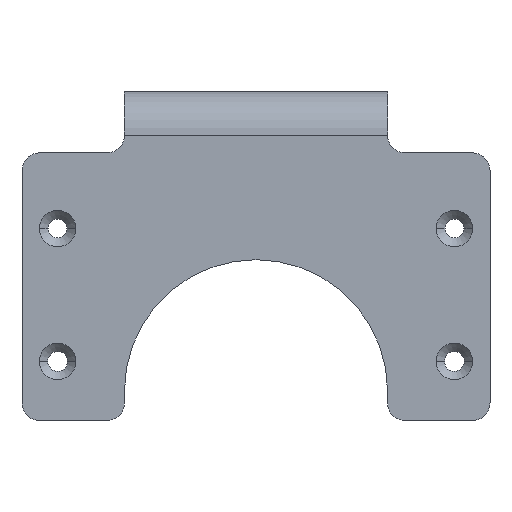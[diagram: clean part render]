
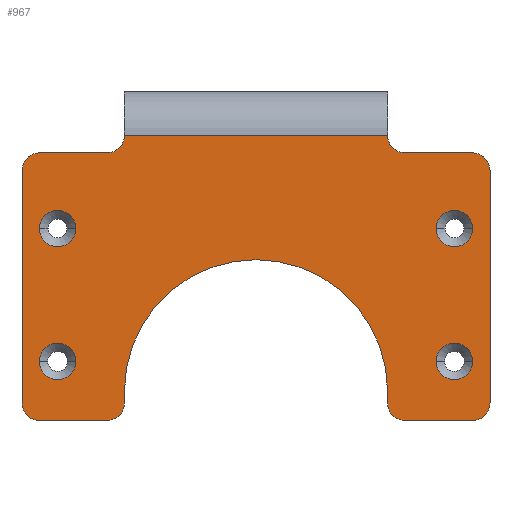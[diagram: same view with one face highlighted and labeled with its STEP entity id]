
A CAD part, front view. The second image highlights one B-rep face of the part: STEP entity #967.
In plain terms, the highlighted planar face has unit normal (0, -1, 0).
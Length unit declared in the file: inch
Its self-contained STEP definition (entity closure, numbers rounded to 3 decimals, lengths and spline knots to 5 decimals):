
#76=CARTESIAN_POINT('',(1.00394,-1.5748,-0.17717));
#77=DIRECTION('',(0.,1.,0.));
#78=DIRECTION('',(0.,0.,-1.));
#79=AXIS2_PLACEMENT_3D('',#76,#77,#78);
#166=CARTESIAN_POINT('',(-1.00394,-1.5748,
-1.97835));
#167=DIRECTION('',(0.,-1.,0.));
#168=DIRECTION('',(0.,0.,-1.));
#169=AXIS2_PLACEMENT_3D('',#166,#167,#168);
#171=CARTESIAN_POINT('',(-1.45669,-1.5748,
-0.41339));
#172=DIRECTION('',(0.,-1.,0.));
#173=DIRECTION('',(0.,0.,1.));
#174=AXIS2_PLACEMENT_3D('',#171,#172,#173);
#176=DIRECTION('',(1.,0.,0.));
#177=VECTOR('',#176,0.45276);
#178=CARTESIAN_POINT('',(-1.45669,-1.5748,
-0.29528));
#179=LINE('',#178,#177);
#180=DIRECTION('',(-1.,0.,0.));
#181=VECTOR('',#180,0.45276);
#182=CARTESIAN_POINT('',(1.45669,-1.5748,
-0.29528));
#183=LINE('',#182,#181);
#184=CARTESIAN_POINT('',(1.45669,-1.5748,
-0.41339));
#185=DIRECTION('',(0.,-1.,0.));
#186=DIRECTION('',(1.,0.,0.));
#187=AXIS2_PLACEMENT_3D('',#184,#185,#186);
#189=DIRECTION('',(0.,0.,-1.));
#190=VECTOR('',#189,1.56496);
#191=CARTESIAN_POINT('',(1.5748,-1.5748,
-0.41339));
#192=LINE('',#191,#190);
#193=CARTESIAN_POINT('',(1.00394,-1.5748,-1.97835));
#194=DIRECTION('',(0.,-1.,0.));
#195=DIRECTION('',(-1.,0.,0.));
#196=AXIS2_PLACEMENT_3D('',#193,#194,#195);
#198=DIRECTION('',(0.,0.,1.));
#199=VECTOR('',#198,0.07874);
#200=CARTESIAN_POINT('',(0.88583,-1.5748,
-1.97835));
#201=LINE('',#200,#199);
#202=CARTESIAN_POINT('',(0.,-1.5748,-1.89961));
#203=DIRECTION('',(0.,-1.,0.));
#204=DIRECTION('',(1.,0.,0.));
#205=AXIS2_PLACEMENT_3D('',#202,#203,#204);
#207=DIRECTION('',(0.,0.,1.));
#208=VECTOR('',#207,0.07874);
#209=CARTESIAN_POINT('',(-0.88583,-1.5748,
-1.97835));
#210=LINE('',#209,#208);
#211=CARTESIAN_POINT('',(-1.335,-1.5748,-1.69846));
#212=DIRECTION('',(0.,-1.,0.));
#213=DIRECTION('',(-1.,0.,0.));
#214=AXIS2_PLACEMENT_3D('',#211,#212,#213);
#216=CARTESIAN_POINT('',(-1.335,-1.5748,-1.69846));
#217=DIRECTION('',(0.,-1.,0.));
#218=DIRECTION('',(1.,0.,0.));
#219=AXIS2_PLACEMENT_3D('',#216,#217,#218);
#221=CARTESIAN_POINT('',(1.335,-1.5748,-1.69846));
#222=DIRECTION('',(0.,-1.,0.));
#223=DIRECTION('',(-1.,0.,0.));
#224=AXIS2_PLACEMENT_3D('',#221,#222,#223);
#226=CARTESIAN_POINT('',(1.335,-1.5748,-1.69846));
#227=DIRECTION('',(0.,-1.,0.));
#228=DIRECTION('',(1.,0.,0.));
#229=AXIS2_PLACEMENT_3D('',#226,#227,#228);
#231=CARTESIAN_POINT('',(-1.335,-1.5748,-0.80437));
#232=DIRECTION('',(0.,-1.,0.));
#233=DIRECTION('',(-1.,0.,0.));
#234=AXIS2_PLACEMENT_3D('',#231,#232,#233);
#236=CARTESIAN_POINT('',(-1.335,-1.5748,-0.80437));
#237=DIRECTION('',(0.,-1.,0.));
#238=DIRECTION('',(1.,0.,0.));
#239=AXIS2_PLACEMENT_3D('',#236,#237,#238);
#241=CARTESIAN_POINT('',(1.335,-1.5748,-0.80437));
#242=DIRECTION('',(0.,-1.,0.));
#243=DIRECTION('',(-1.,0.,0.));
#244=AXIS2_PLACEMENT_3D('',#241,#242,#243);
#246=CARTESIAN_POINT('',(1.335,-1.5748,-0.80437));
#247=DIRECTION('',(0.,-1.,0.));
#248=DIRECTION('',(1.,0.,0.));
#249=AXIS2_PLACEMENT_3D('',#246,#247,#248);
#259=DIRECTION('',(-1.,0.,0.));
#260=VECTOR('',#259,0.45276);
#261=CARTESIAN_POINT('',(-1.00394,-1.5748,
-2.09646));
#262=LINE('',#261,#260);
#267=CARTESIAN_POINT('',(-1.45669,-1.5748,
-1.97835));
#268=DIRECTION('',(0.,-1.,0.));
#269=DIRECTION('',(-1.,0.,0.));
#270=AXIS2_PLACEMENT_3D('',#267,#268,#269);
#285=DIRECTION('',(0.,0.,-1.));
#286=VECTOR('',#285,1.56496);
#287=CARTESIAN_POINT('',(-1.5748,-1.5748,
-0.41339));
#288=LINE('',#287,#286);
#302=CARTESIAN_POINT('',(-1.00394,-1.5748,
-0.17717));
#303=DIRECTION('',(0.,1.,0.));
#304=DIRECTION('',(1.,0.,0.));
#305=AXIS2_PLACEMENT_3D('',#302,#303,#304);
#361=DIRECTION('',(1.,0.,0.));
#362=VECTOR('',#361,1.77165);
#363=CARTESIAN_POINT('',(-0.88583,-1.5748,
-0.17717));
#364=LINE('',#363,#362);
#467=CARTESIAN_POINT('',(1.45669,-1.5748,-1.97835));
#468=DIRECTION('',(0.,-1.,0.));
#469=DIRECTION('',(0.,0.,-1.));
#470=AXIS2_PLACEMENT_3D('',#467,#468,#469);
#476=DIRECTION('',(-1.,0.,0.));
#477=VECTOR('',#476,0.45276);
#478=CARTESIAN_POINT('',(1.45669,-1.5748,-2.09646));
#479=LINE('',#478,#477);
#604=CARTESIAN_POINT('',(-1.5748,-1.5748,
-1.97835));
#606=VERTEX_POINT('',#604);
#608=CARTESIAN_POINT('',(-1.45669,-1.5748,
-2.09646));
#609=VERTEX_POINT('',#608);
#613=CARTESIAN_POINT('',(1.5748,-1.5748,-1.97835));
#615=VERTEX_POINT('',#613);
#618=CARTESIAN_POINT('',(1.45669,-1.5748,-2.09646));
#619=VERTEX_POINT('',#618);
#624=CARTESIAN_POINT('',(-1.45803,-1.5748,
-1.69846));
#625=CARTESIAN_POINT('',(-1.21197,-1.5748,
-1.69846));
#626=VERTEX_POINT('',#624);
#627=VERTEX_POINT('',#625);
#636=CARTESIAN_POINT('',(1.21197,-1.5748,-1.69846));
#637=CARTESIAN_POINT('',(1.45803,-1.5748,-1.69846));
#638=VERTEX_POINT('',#636);
#639=VERTEX_POINT('',#637);
#648=CARTESIAN_POINT('',(-1.45803,-1.5748,
-0.80437));
#649=CARTESIAN_POINT('',(-1.21197,-1.5748,
-0.80437));
#650=VERTEX_POINT('',#648);
#651=VERTEX_POINT('',#649);
#660=CARTESIAN_POINT('',(1.21197,-1.5748,
-0.80437));
#661=CARTESIAN_POINT('',(1.45803,-1.5748,
-0.80437));
#662=VERTEX_POINT('',#660);
#663=VERTEX_POINT('',#661);
#689=CARTESIAN_POINT('',(0.88583,-1.5748,
-0.17717));
#691=VERTEX_POINT('',#689);
#693=CARTESIAN_POINT('',(1.00394,-1.5748,
-0.29528));
#695=VERTEX_POINT('',#693);
#697=CARTESIAN_POINT('',(-1.00394,-1.5748,
-0.29528));
#699=VERTEX_POINT('',#697);
#701=CARTESIAN_POINT('',(-0.88583,-1.5748,
-0.17717));
#703=VERTEX_POINT('',#701);
#704=CARTESIAN_POINT('',(1.5748,-1.5748,
-0.41339));
#705=CARTESIAN_POINT('',(1.45669,-1.5748,
-0.29528));
#706=VERTEX_POINT('',#704);
#707=VERTEX_POINT('',#705);
#716=CARTESIAN_POINT('',(-1.45669,-1.5748,
-0.29528));
#717=VERTEX_POINT('',#716);
#718=CARTESIAN_POINT('',(-1.5748,-1.5748,
-0.41339));
#719=VERTEX_POINT('',#718);
#720=CARTESIAN_POINT('',(0.88583,-1.5748,
-1.89961));
#721=CARTESIAN_POINT('',(-0.88583,-1.5748,
-1.89961));
#722=VERTEX_POINT('',#720);
#723=VERTEX_POINT('',#721);
#728=CARTESIAN_POINT('',(-1.00394,-1.5748,
-2.09646));
#729=CARTESIAN_POINT('',(-0.88583,-1.5748,
-1.97835));
#730=VERTEX_POINT('',#728);
#731=VERTEX_POINT('',#729);
#740=CARTESIAN_POINT('',(0.88583,-1.5748,
-1.97835));
#741=VERTEX_POINT('',#740);
#742=CARTESIAN_POINT('',(1.00394,-1.5748,-2.09646));
#743=VERTEX_POINT('',#742);
#902=CARTESIAN_POINT('',(-1.5748,-1.5748,0.));
#903=DIRECTION('',(0.,-1.,0.));
#904=DIRECTION('',(1.,0.,0.));
#905=AXIS2_PLACEMENT_3D('',#902,#903,#904);
#906=PLANE('',#905);
#907=ORIENTED_EDGE('',*,*,#892,.F.);
#909=ORIENTED_EDGE('',*,*,#908,.T.);
#911=ORIENTED_EDGE('',*,*,#910,.F.);
#913=ORIENTED_EDGE('',*,*,#912,.F.);
#915=ORIENTED_EDGE('',*,*,#914,.F.);
#917=ORIENTED_EDGE('',*,*,#916,.T.);
#919=ORIENTED_EDGE('',*,*,#918,.F.);
#921=ORIENTED_EDGE('',*,*,#920,.T.);
#922=ORIENTED_EDGE('',*,*,#815,.F.);
#924=ORIENTED_EDGE('',*,*,#923,.F.);
#926=ORIENTED_EDGE('',*,*,#925,.F.);
#928=ORIENTED_EDGE('',*,*,#927,.T.);
#930=ORIENTED_EDGE('',*,*,#929,.F.);
#932=ORIENTED_EDGE('',*,*,#931,.T.);
#934=ORIENTED_EDGE('',*,*,#933,.F.);
#936=ORIENTED_EDGE('',*,*,#935,.T.);
#938=ORIENTED_EDGE('',*,*,#937,.T.);
#940=ORIENTED_EDGE('',*,*,#939,.F.);
#941=EDGE_LOOP('',(#907,#909,#911,#913,#915,#917,#919,#921,#922,#924,#926,#928,
#930,#932,#934,#936,#938,#940));
#942=FACE_OUTER_BOUND('',#941,.F.);
#944=ORIENTED_EDGE('',*,*,#943,.T.);
#946=ORIENTED_EDGE('',*,*,#945,.T.);
#947=EDGE_LOOP('',(#944,#946));
#948=FACE_BOUND('',#947,.F.);
#950=ORIENTED_EDGE('',*,*,#949,.T.);
#952=ORIENTED_EDGE('',*,*,#951,.T.);
#953=EDGE_LOOP('',(#950,#952));
#954=FACE_BOUND('',#953,.F.);
#956=ORIENTED_EDGE('',*,*,#955,.T.);
#958=ORIENTED_EDGE('',*,*,#957,.T.);
#959=EDGE_LOOP('',(#956,#958));
#960=FACE_BOUND('',#959,.F.);
#962=ORIENTED_EDGE('',*,*,#961,.T.);
#964=ORIENTED_EDGE('',*,*,#963,.T.);
#965=EDGE_LOOP('',(#962,#964));
#966=FACE_BOUND('',#965,.F.);
#967=ADVANCED_FACE('',(#942,#948,#954,#960,#966),#906,.T.);
#80=CIRCLE('',#79,0.11811);
#170=CIRCLE('',#169,0.11811);
#175=CIRCLE('',#174,0.11811);
#188=CIRCLE('',#187,0.11811);
#197=CIRCLE('',#196,0.11811);
#206=CIRCLE('',#205,0.88583);
#215=CIRCLE('',#214,0.12303);
#220=CIRCLE('',#219,0.12303);
#225=CIRCLE('',#224,0.12303);
#230=CIRCLE('',#229,0.12303);
#235=CIRCLE('',#234,0.12303);
#240=CIRCLE('',#239,0.12303);
#245=CIRCLE('',#244,0.12303);
#250=CIRCLE('',#249,0.12303);
#271=CIRCLE('',#270,0.11811);
#306=CIRCLE('',#305,0.11811);
#471=CIRCLE('',#470,0.11811);
#815=EDGE_CURVE('',#695,#691,#80,.T.);
#892=EDGE_CURVE('',#730,#731,#170,.T.);
#908=EDGE_CURVE('',#730,#609,#262,.T.);
#910=EDGE_CURVE('',#606,#609,#271,.T.);
#912=EDGE_CURVE('',#719,#606,#288,.T.);
#914=EDGE_CURVE('',#717,#719,#175,.T.);
#916=EDGE_CURVE('',#717,#699,#179,.T.);
#918=EDGE_CURVE('',#703,#699,#306,.T.);
#920=EDGE_CURVE('',#703,#691,#364,.T.);
#923=EDGE_CURVE('',#707,#695,#183,.T.);
#925=EDGE_CURVE('',#706,#707,#188,.T.);
#927=EDGE_CURVE('',#706,#615,#192,.T.);
#929=EDGE_CURVE('',#619,#615,#471,.T.);
#931=EDGE_CURVE('',#619,#743,#479,.T.);
#933=EDGE_CURVE('',#741,#743,#197,.T.);
#935=EDGE_CURVE('',#741,#722,#201,.T.);
#937=EDGE_CURVE('',#722,#723,#206,.T.);
#939=EDGE_CURVE('',#731,#723,#210,.T.);
#943=EDGE_CURVE('',#626,#627,#215,.T.);
#945=EDGE_CURVE('',#627,#626,#220,.T.);
#949=EDGE_CURVE('',#638,#639,#225,.T.);
#951=EDGE_CURVE('',#639,#638,#230,.T.);
#955=EDGE_CURVE('',#650,#651,#235,.T.);
#957=EDGE_CURVE('',#651,#650,#240,.T.);
#961=EDGE_CURVE('',#662,#663,#245,.T.);
#963=EDGE_CURVE('',#663,#662,#250,.T.);
